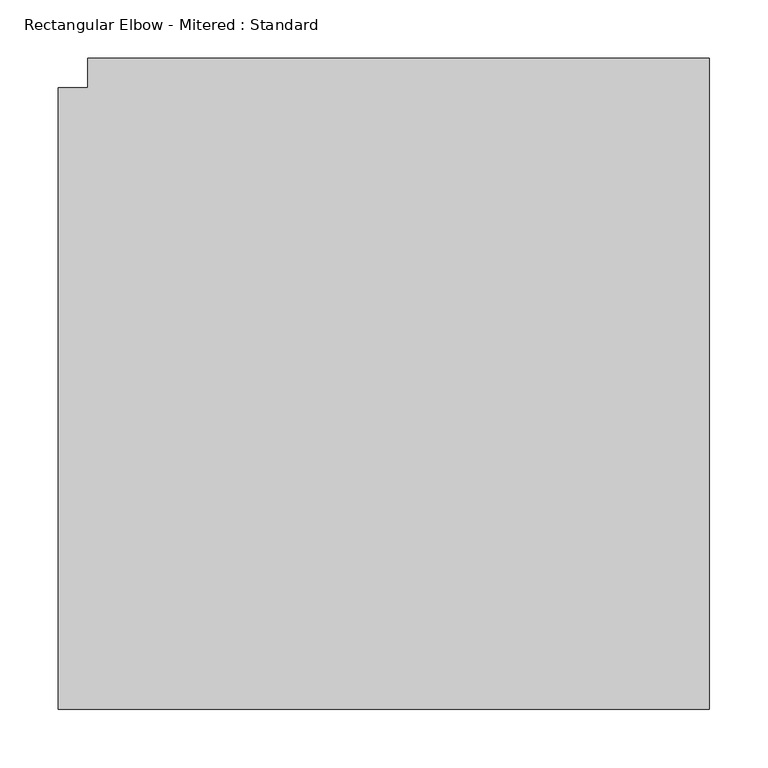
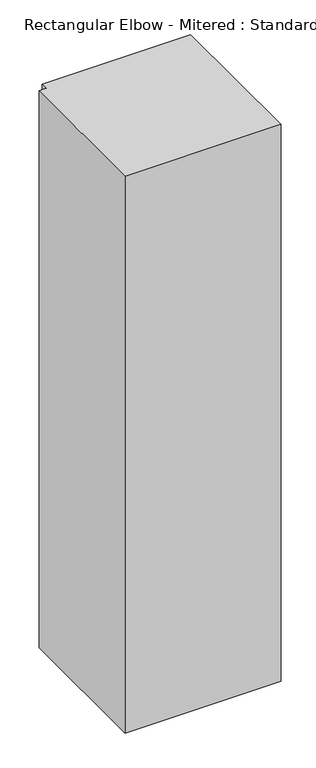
"""IFC4 building model written with IfcOpenShell, lengths in millimetres: duct fitting geometry, Rectangular Elbow - Mitered : Standard."""

from ifc_helpers import new_model, si_unit, frame, origin, place, context, project, spatial, polyline, outline, extrude, source, transform, mapped, element, save


def rectangular_elbow_mitered_standard_27e63693(model_context):
    return source(origin(), model_context, "Body", "SweptSolid", [
        extrude(outline(polyline([(-292.1, -266.7), (-292.1, 266.7), (-266.7, 266.7), (-266.7, 292.1), (266.7, 292.1), (266.7, -266.7), (-292.1, -266.7)])), frame((0.0, 0.0, -1054.1), z_axis=(0.0, 0.0, 1.0), x_axis=(1.0, 0.0, 0.0)), (0.0, 0.0, 1.0), 2108.2),
    ])


if __name__ == "__main__":
    model = new_model("IFC4")
    model_context = context("Model", 3, world=origin())
    ifc_project = project(units=[si_unit("LENGTHUNIT", "METRE", prefix="MILLI")], contexts=[model_context])
    site = spatial("IfcSite", under=ifc_project)
    building = spatial("IfcBuilding", under=site)
    placement = place(None, origin())
    rectangular_elbow_mitered_standard_shape = rectangular_elbow_mitered_standard_27e63693(model_context)
    element("IfcDuctFitting", 1, ObjectType="Rectangular Elbow - Mitered : Standard", at=placement, inside=building, context=model_context, shape_type="MappedRepresentation", body=[
        mapped(rectangular_elbow_mitered_standard_shape, transform((0.0, 0.0, 0.0), x_axis=(1.0, 0.0, 0.0), y_axis=(0.0, 1.0, 0.0), z_axis=(0.0, 0.0, 1.0))),
    ])
    save(model, "model.ifc")
